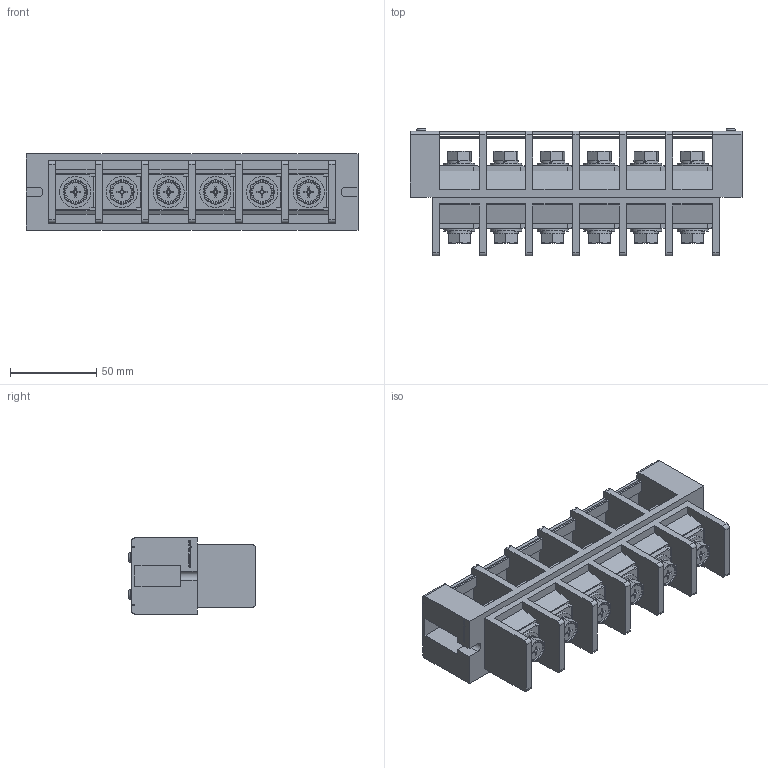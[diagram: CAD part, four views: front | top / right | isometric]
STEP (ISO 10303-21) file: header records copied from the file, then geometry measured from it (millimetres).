
FILE_DESCRIPTION(/* description */ ('Alibre Inc.'),/* implementation_level */ '2;1');
FILE_NAME(/* name */ 'export0',/* time_stamp */ '2016-04-05T18:40:31+09:00',/* author */ (''),/* organization */ (''),/* preprocessor_version */ 'ST-DEVELOPER v14',/* originating_system */ 'Alibre',/* authorisation */ '');
FILE_SCHEMA (('CONFIG_CONTROL_DESIGN'));
Length unit declared in the file: centimetre
Products named in the file (1): ID_1
Bounding box: 192 x 73.94 x 44 mm (x, y, z)
Volume: 229040.4 mm3; surface area: 102678.4 mm2
Topology: 2 solids, 4 shells, 1204 faces, 3283 edges, 2112 vertices
Faces by surface type: plane 896, cone 152, cylinder 100, bspline 52, sphere 2, torus 2
Full cylindrical faces by diameter (mm): 3 x4, 5.5 x2, 8 x12, 18 x12
Entity records: 34096 total; most frequent: CARTESIAN_POINT 6781, ORIENTED_EDGE 6426, DIRECTION 4304, EDGE_CURVE 3213, VERTEX_POINT 2098, VECTOR 2033, LINE 2033, AXIS2_PLACEMENT_3D 1514
